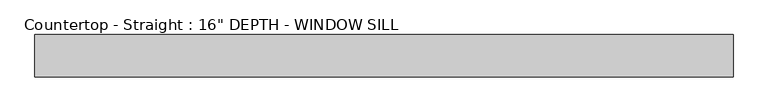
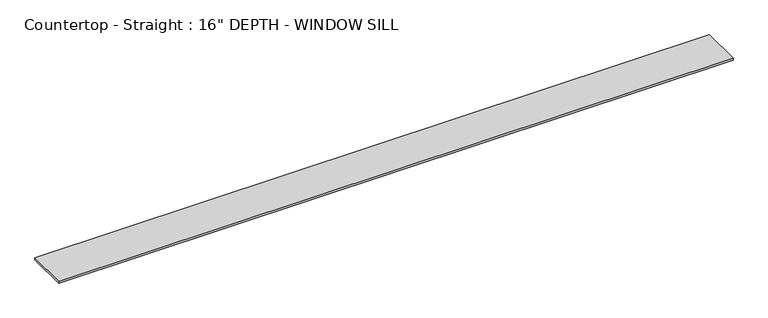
"""IFC4 building model written with IfcOpenShell, lengths in millimetres: furniture geometry."""

from ifc_helpers import new_model, si_unit, frame, origin, place, context, project, spatial, polyline, outline, extrude, source, transform, mapped, element, save


def furniture_2e8edbcf(model_context):
    return source(origin(), model_context, "Body", "SweptSolid", [
        extrude(outline(polyline([(5498.7877049, 0.0), (5498.7877049, -406.4), (-1200.4622951, -406.4), (-1200.4622951, 0.0), (5498.7877049, 0.0)])), frame((0.0, 0.0, 844.55), z_axis=(0.0, 0.0, 1.0), x_axis=(1.0, 0.0, 0.0)), (0.0, 0.0, 1.0), 19.05),
    ])


if __name__ == "__main__":
    model = new_model("IFC4")
    model_context = context("Model", 3, world=origin())
    ifc_project = project(units=[si_unit("LENGTHUNIT", "METRE", prefix="MILLI")], contexts=[model_context])
    site = spatial("IfcSite", under=ifc_project)
    building = spatial("IfcBuilding", under=site)
    placement = place(None, origin())
    furniture_shape = furniture_2e8edbcf(model_context)
    element("IfcFurniture", 1, ObjectType="Countertop - Straight : 16\" DEPTH - WINDOW SILL", at=placement, inside=building, context=model_context, shape_type="MappedRepresentation", body=[
        mapped(furniture_shape, transform((0.0, 0.0, 0.0), x_axis=(1.0, 0.0, 0.0), y_axis=(0.0, 1.0, 0.0), z_axis=(0.0, 0.0, 1.0))),
    ])
    save(model, "model.ifc")
